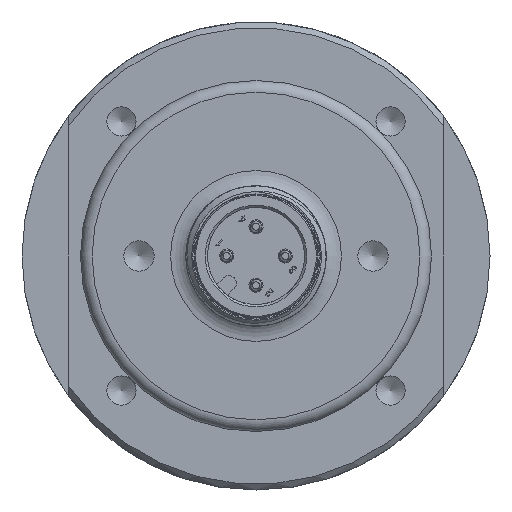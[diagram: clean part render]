
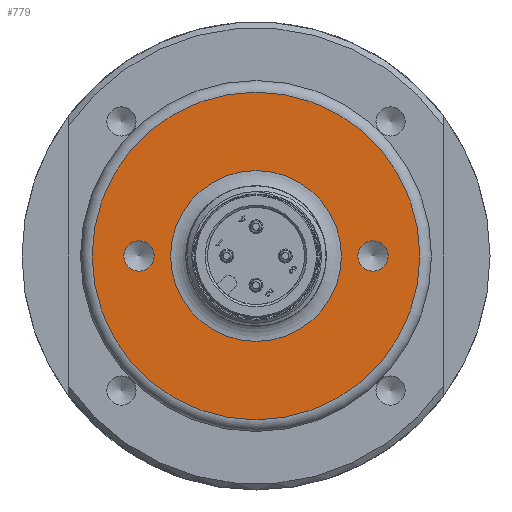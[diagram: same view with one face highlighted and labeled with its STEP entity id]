
A CAD part, front view. The second image highlights one B-rep face of the part: STEP entity #779.
In plain terms, the highlighted planar face has unit normal (0, -1, 0) as drawn and (0, 1, 0) by its records, which use the part's own axes.
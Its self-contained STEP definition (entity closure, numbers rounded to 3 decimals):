
#779 = ADVANCED_FACE( '', ( #1557, #1558, #1559, #1560 ), #1561, .T. );
#1557 = FACE_BOUND( '', #5611, .T. );
#1558 = FACE_OUTER_BOUND( '', #5612, .T. );
#1559 = FACE_BOUND( '', #5613, .T. );
#1560 = FACE_BOUND( '', #5614, .T. );
#1561 = PLANE( '', #5615 );
#5611 = EDGE_LOOP( '', ( #7907 ) );
#5612 = EDGE_LOOP( '', ( #7908 ) );
#5613 = EDGE_LOOP( '', ( #7909 ) );
#5614 = EDGE_LOOP( '', ( #7910 ) );
#5615 = AXIS2_PLACEMENT_3D( '', #7911, #7912, #7913 );
#7907 = ORIENTED_EDGE( '', *, *, #8784, .T. );
#7908 = ORIENTED_EDGE( '', *, *, #8955, .T. );
#7909 = ORIENTED_EDGE( '', *, *, #8956, .T. );
#7910 = ORIENTED_EDGE( '', *, *, #8859, .T. );
#7911 = CARTESIAN_POINT( '', ( -15., -2.104, 0. ) );
#7912 = DIRECTION( '', ( 0., 1., 0. ) );
#7913 = DIRECTION( '', ( -1., 0., 0. ) );
#8784 = EDGE_CURVE( '', #9638, #9638, #9639, .F. );
#8859 = EDGE_CURVE( '', #9739, #9739, #9740, .T. );
#8955 = EDGE_CURVE( '', #9859, #9859, #9860, .T. );
#8956 = EDGE_CURVE( '', #9861, #9861, #9862, .T. );
#9638 = VERTEX_POINT( '', #12674 );
#9639 = CIRCLE( '', #12675, 7.3 );
#9739 = VERTEX_POINT( '', #13536 );
#9740 = CIRCLE( '', #13537, 1.3 );
#9859 = VERTEX_POINT( '', #13897 );
#9860 = CIRCLE( '', #13898, 14. );
#9861 = VERTEX_POINT( '', #13899 );
#9862 = CIRCLE( '', #13900, 1.3 );
#12674 = CARTESIAN_POINT( '', ( -7.3, -2.104, 0. ) );
#12675 = AXIS2_PLACEMENT_3D( '', #14369, #14370, #14371 );
#13536 = CARTESIAN_POINT( '', ( -1.3, -2.104, 10. ) );
#13537 = AXIS2_PLACEMENT_3D( '', #14439, #14440, #14441 );
#13897 = CARTESIAN_POINT( '', ( -14., -2.104, 0. ) );
#13898 = AXIS2_PLACEMENT_3D( '', #14522, #14523, #14524 );
#13899 = CARTESIAN_POINT( '', ( -1.3, -2.104, -10. ) );
#13900 = AXIS2_PLACEMENT_3D( '', #14525, #14526, #14527 );
#14369 = CARTESIAN_POINT( '', ( 0., -2.104, 0. ) );
#14370 = DIRECTION( '', ( 0., 1., 0. ) );
#14371 = DIRECTION( '', ( -1., 0., 0. ) );
#14439 = CARTESIAN_POINT( '', ( 0., -2.104, 10. ) );
#14440 = DIRECTION( '', ( 0., -1., 0. ) );
#14441 = DIRECTION( '', ( -1., 0., 0. ) );
#14522 = CARTESIAN_POINT( '', ( 0., -2.104, 0. ) );
#14523 = DIRECTION( '', ( 0., 1., 0. ) );
#14524 = DIRECTION( '', ( -1., 0., 0. ) );
#14525 = CARTESIAN_POINT( '', ( 0., -2.104, -10. ) );
#14526 = DIRECTION( '', ( 0., -1., 0. ) );
#14527 = DIRECTION( '', ( -1., 0., 0. ) );
